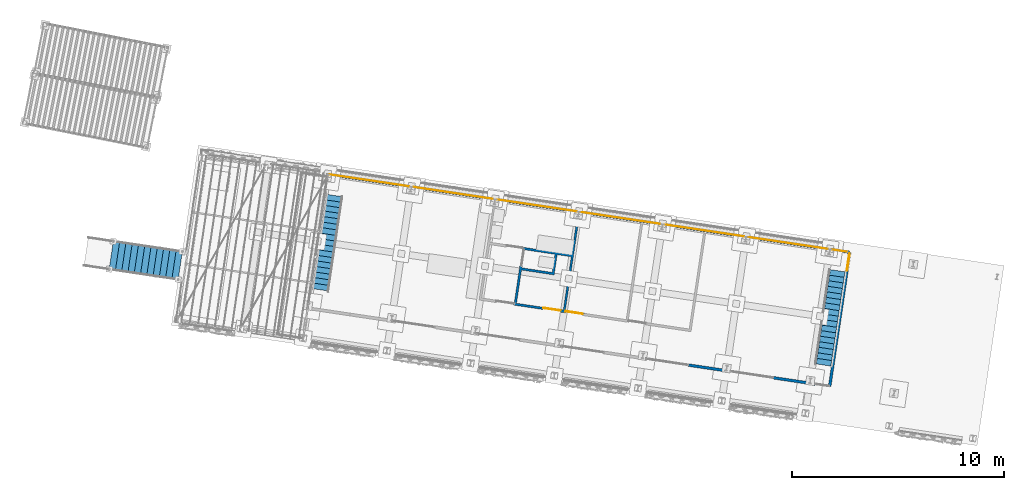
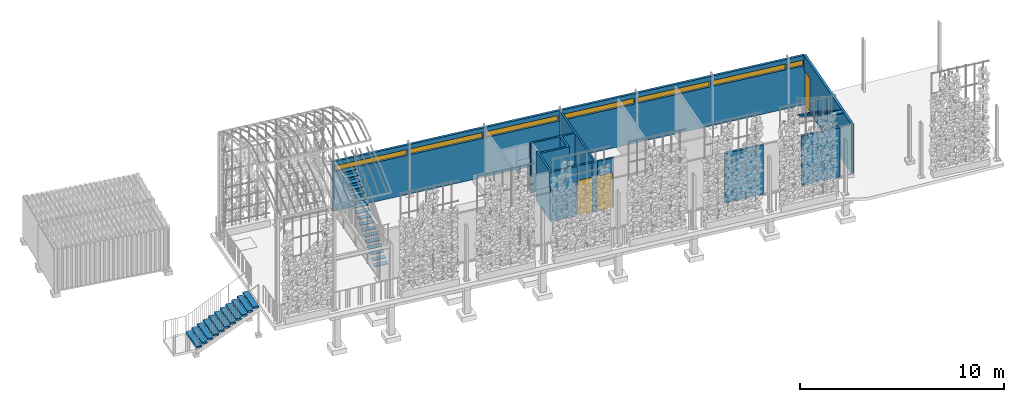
# One storey, part 135 of 142: 7 windows, 5 walls, 3 doors, 3 stair flights, 13 openings, 3 elements without a shape of their own.
"""IFC4 building model written with IfcOpenShell, lengths in metres."""

from ifc_helpers import new_model, si_unit, direction, frame, origin_with_axes, place, context, subcontext, project, spatial, polyline, outline, extrude, material, layer, layer_set, constituent, constituent_set, element, fill, aggregate, save


model = new_model("IFC4")

# Units and contexts
model_context = context("Model", 3, precision=1e-05, world=origin_with_axes(), true_north=direction((0.0, 1.0)))
body_context = subcontext(model_context, "Body", "Model", "MODEL_VIEW")
ifc_project = project(units=[si_unit("AREAUNIT", "SQUARE_METRE"), si_unit("VOLUMEUNIT", "CUBIC_METRE"), si_unit("LENGTHUNIT", "METRE")], contexts=[model_context])

# Site, building, storey
site_placement = place(None, origin_with_axes())
site = spatial("IfcSite", under=ifc_project, at=site_placement, Name="Lares · Rua das Mercês · artigo 4771")
building_placement = place(site_placement, frame((15.0, 9.7, 14.65), z_axis=(0.0, 0.0, 1.0), x_axis=(0.989015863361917, -0.147809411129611, 0.0)))
building = spatial("IfcBuilding", under=site, at=building_placement, Name="Casa Sobreposta")
storey_placement = place(building_placement, origin_with_axes())
storey = spatial("IfcBuildingStorey", under=building, at=storey_placement, Name="00 · Habitação e estacionamento", Elevation=14.65)

# Wall, openings, doors
ifc_material_1 = material(Name="OSB", Category="wood")
ifc_constituent_1 = constituent(ifc_material_1, Name="osb")
ifc_material_2 = material(Name="Lã mineral / Mineralwolle 2", Category="mineral wool")
ifc_constituent_2 = constituent(ifc_material_2, Name="wool")
ifc_constituent_set = constituent_set(constituents=[ifc_constituent_1, ifc_constituent_2], Name="OSB22 / lã mineral / OSB22")
wall_1_placement = place(storey_placement, origin_with_axes())
wall_1 = element("IfcWall", 1, at=wall_1_placement, inside=storey, material=ifc_constituent_set, Name="Divisória 2 · OSB 22 mm nas duas faces", context=body_context, shape_type="SweptSolid", body=[
    extrude(outline(polyline([(9.72999999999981, 3.383), (11.1799999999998, 3.383), (11.1799999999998, 4.24299999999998), (9.72999999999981, 4.24299999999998), (9.72999999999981, 4.19299999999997), (9.61999999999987, 4.19299999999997), (9.61999999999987, 4.24299999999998), (9.56999999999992, 4.24299999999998), (9.56999999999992, 4.35299999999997), (11.96, 4.35299999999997), (11.96, 6.27299999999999), (12.06, 6.27299999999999), (12.06, 1.70993390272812), (12.9746138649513, 1.7100856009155), (12.974632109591, 1.60008560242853), (12.1099999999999, 1.59994219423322), (12.1099999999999, 1.57999999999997), (11.8099999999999, 1.57999999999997), (11.8099999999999, 1.59995696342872), (11.05, 1.60006879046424), (11.05, 1.57999999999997), (9.56999999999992, 1.57999999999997), (9.56999999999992, 1.68999999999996), (9.61999999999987, 1.68999999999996), (9.61999999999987, 3.53299999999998), (9.72999999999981, 3.53299999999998), (9.72999999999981, 3.383)]), holes=[polyline([(9.64199999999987, 3.51099999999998), (9.64199999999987, 1.66799999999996), (9.59199999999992, 1.66799999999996), (9.59199999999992, 1.60199999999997), (11.028, 1.60199999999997), (11.028, 1.62207202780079), (11.8319999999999, 1.62195372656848), (11.8319999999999, 1.60199999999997), (12.0879999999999, 1.60199999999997), (12.0879999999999, 1.62193854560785), (12.9526284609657, 1.62208195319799), (12.9526175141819, 1.68808195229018), (12.038, 1.68793025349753), (12.038, 6.25099999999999), (11.982, 6.25099999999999), (11.982, 4.33099999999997), (9.59199999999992, 4.33099999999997), (9.59199999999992, 4.26499999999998), (9.64199999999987, 4.26499999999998), (9.64199999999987, 4.21499999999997), (9.70799999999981, 4.21499999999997), (9.70799999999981, 4.26499999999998), (11.2019999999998, 4.26499999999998), (11.2019999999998, 3.361), (9.70799999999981, 3.361), (9.70799999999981, 3.51099999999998), (9.64199999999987, 3.51099999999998)])]), origin_with_axes(), (0.0, 0.0, 1.0), 2.968),
    extrude(outline(polyline([(10.9666589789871, 1.66799999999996), (9.70799999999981, 1.66799999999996), (9.70799999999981, 3.29500000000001), (11.268, 3.29500000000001), (11.268, 4.26499999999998), (11.982, 4.26499999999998), (11.982, 1.66799999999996), (11.892736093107, 1.66799999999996), (11.8927390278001, 1.68794479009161), (10.9666619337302, 1.68808105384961), (10.9666589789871, 1.66799999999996)]), holes=[polyline([(11.96, 4.24299999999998), (11.29, 4.24299999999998), (11.29, 3.27300000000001), (9.72999999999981, 3.27300000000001), (9.72999999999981, 1.68999999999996), (10.9446622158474, 1.68999999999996), (10.9446651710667, 1.71008429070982), (11.9147422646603, 1.70994155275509), (11.9147393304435, 1.68999999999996), (11.96, 1.68999999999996), (11.96, 4.24299999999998)])]), origin_with_axes(), (0.0, 0.0, 1.0), 2.968),
    extrude(outline(polyline([(9.70799999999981, 3.51099999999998), (9.70799999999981, 3.361), (11.2019999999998, 3.361), (11.2019999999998, 4.26499999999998), (9.70799999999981, 4.26499999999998), (9.70799999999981, 4.21499999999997), (9.64199999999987, 4.21499999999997), (9.64199999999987, 4.26499999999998), (9.59199999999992, 4.26499999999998), (9.59199999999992, 4.33099999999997), (11.982, 4.33099999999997), (11.982, 6.25099999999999), (12.038, 6.25099999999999), (12.038, 1.68793025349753), (12.9526175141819, 1.68808195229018), (12.9526284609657, 1.62208195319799), (12.0879999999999, 1.62193854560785), (12.0879999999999, 1.60199999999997), (11.8319999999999, 1.60199999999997), (11.8319999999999, 1.62195372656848), (11.028, 1.62207202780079), (11.028, 1.60199999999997), (9.59199999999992, 1.60199999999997), (9.59199999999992, 1.66799999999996), (9.64199999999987, 1.66799999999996), (9.64199999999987, 3.51099999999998), (9.70799999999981, 3.51099999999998)]), holes=[polyline([(10.9666619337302, 1.68808105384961), (11.8927390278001, 1.68794479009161), (11.892736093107, 1.66799999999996), (11.982, 1.66799999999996), (11.982, 4.26499999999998), (11.268, 4.26499999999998), (11.268, 3.29500000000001), (9.70799999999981, 3.29500000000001), (9.70799999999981, 1.66799999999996), (10.9666589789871, 1.66799999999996), (10.9666619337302, 1.68808105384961)])]), origin_with_axes(), (0.0, 0.0, 1.0), 2.968),
])
opening_1_placement = place(wall_1_placement, origin_with_axes())
opening_1 = element("IfcOpeningElement", 2, at=opening_1_placement, cuts=wall_1, PredefinedType="OPENING", context=body_context, shape_type="SweptSolid", body=[
    extrude(outline(polyline([(12.9045964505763, 1.81507398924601), (12.9046495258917, 1.49507399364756), (12.0745568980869, 1.49493631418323), (12.0745038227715, 1.81493630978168), (12.9045964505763, 1.81507398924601)])), origin_with_axes(), (0.0, 0.0, 1.0), 2.1),
])
opening_2_placement = place(wall_1_placement, origin_with_axes())
element("IfcOpeningElement", 3, at=opening_2_placement, cuts=wall_1, PredefinedType="OPENING", context=body_context, shape_type="SweptSolid", body=[
    extrude(outline(polyline([(8.87451187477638, 4.15754451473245), (8.87455853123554, 4.47754451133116), (9.60464431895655, 4.4774380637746), (9.60459766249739, 4.15743806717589), (8.87451187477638, 4.15754451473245)])), origin_with_axes(), (0.0, 0.0, 1.0), 2.1),
])
opening_3_placement = place(wall_1_placement, origin_with_axes())
element("IfcOpeningElement", 4, at=opening_3_placement, cuts=wall_1, PredefinedType="OPENING", context=body_context, shape_type="SweptSolid", body=[
    extrude(outline(polyline([(8.77453708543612, 1.49507399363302), (8.77458998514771, 1.81507398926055), (9.60468215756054, 1.81493676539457), (9.60462925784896, 1.49493676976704), (8.77453708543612, 1.49507399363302)])), origin_with_axes(), (0.0, 0.0, 1.0), 2.1),
])
opening_4_placement = place(wall_1_placement, origin_with_axes())
opening_4 = element("IfcOpeningElement", 5, at=opening_4_placement, cuts=wall_1, Name="Vão porta interior 5.1", PredefinedType="OPENING", context=body_context, shape_type="SweptSolid", body=[
    extrude(outline(polyline([(11.0146335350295, 1.49507399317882), (11.0146806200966, 1.81507398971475), (11.8447577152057, 1.81495185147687), (11.8447106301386, 1.49495185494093), (11.0146335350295, 1.49507399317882)])), origin_with_axes(), (0.0, 0.0, 1.0), 2.1),
])
opening_5_placement = place(wall_1_placement, origin_with_axes())
element("IfcOpeningElement", 6, at=opening_5_placement, cuts=wall_1, PredefinedType="OPENING", context=body_context, shape_type="SweptSolid", body=[
    extrude(outline(polyline([(9.85466693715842, 3.49756304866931), (9.53466694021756, 3.49751880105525), (9.5345659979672, 4.22753601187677), (9.85456599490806, 4.22758025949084), (9.85466693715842, 3.49756304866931)])), origin_with_axes(), (0.0, 0.0, 1.0), 2.1),
])
door_1_placement = place(storey_placement, origin_with_axes())
door_1 = element("IfcDoor", 7, at=door_1_placement, inside=storey, material=ifc_material_1, Name="Porta interior 2", OperationType="SINGLE_SWING_LEFT", OverallHeight=2.1, OverallWidth=0.830092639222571, PredefinedType="DOOR", context=body_context, shape_type="SweptSolid", body=[
    extrude(outline(polyline([(12.9046200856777, 1.67257399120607), (12.9046258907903, 1.63757399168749), (12.0745332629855, 1.63743631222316), (12.0745274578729, 1.67243631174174), (12.9046200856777, 1.67257399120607)])), origin_with_axes(), (0.0, 0.0, 1.0), 2.1),
])
fill(opening_1, door_1)
door_2_placement = place(storey_placement, origin_with_axes())
door_2 = element("IfcDoor", 8, at=door_2_placement, inside=storey, material=ifc_material_1, Name="Porta interior 5", OperationType="SINGLE_SWING_LEFT", OverallHeight=2.1, OverallWidth=0.830077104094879, PredefinedType="DOOR", context=body_context, shape_type="SweptSolid", body=[
    extrude(outline(polyline([(11.0146545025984, 1.63757399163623), (11.0146596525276, 1.67257399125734), (11.8447367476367, 1.67245185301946), (11.8447315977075, 1.63745185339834), (11.0146545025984, 1.63757399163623)])), origin_with_axes(), (0.0, 0.0, 1.0), 2.1),
])
fill(opening_4, door_2)

# Wall, openings, windows
ifc_material_3 = material(Name="Aço pintado / Stahl lackiert", Category="steel")
ifc_layer_1 = layer(ifc_material_3, 0.005, Name="steel")
ifc_layer_2 = layer(ifc_material_2, 0.12, Name="wool")
ifc_layer_3 = layer(ifc_material_3, 0.00516, Name="steel")
ifc_layer_set_1 = layer_set([ifc_layer_1, ifc_layer_2, ifc_layer_3], Name="Casa DFL sandwich · 130.16 mm")
wall_2_placement = place(storey_placement, origin_with_axes())
wall_2 = element("IfcWall", 9, at=wall_2_placement, inside=storey, material=ifc_layer_set_1, Name="Fachada norte · sandwich Casa DFL", context=body_context, shape_type="SweptSolid", body=[
    extrude(outline(polyline([(24.92, 6.46508), (24.92, 6.33492), (0.0, 6.33492), (0.0, 6.46508), (24.92, 6.46508)])), origin_with_axes(), (0.0, 0.0, 1.0), 2.968),
])
opening_6_placement = place(wall_2_placement, frame((0.0, 0.0, 2.35), z_axis=(0.0, 0.0, 1.0), x_axis=(1.0, 0.0, 0.0)))
opening_6 = element("IfcOpeningElement", 10, at=opening_6_placement, cuts=wall_2, Name="Vão rasgo norte 1", PredefinedType="OPENING", context=body_context, shape_type="SweptSolid", body=[
    extrude(outline(polyline([(3.92, 6.6), (3.92, 6.2), (0.08, 6.2), (0.08, 6.6), (3.92, 6.6)])), origin_with_axes(), (0.0, 0.0, 1.0), 0.35),
])
opening_7_placement = place(wall_2_placement, frame((0.0, 0.0, 2.35), z_axis=(0.0, 0.0, 1.0), x_axis=(1.0, 0.0, 0.0)))
opening_7 = element("IfcOpeningElement", 11, at=opening_7_placement, cuts=wall_2, Name="Vão rasgo norte 2", PredefinedType="OPENING", context=body_context, shape_type="SweptSolid", body=[
    extrude(outline(polyline([(7.92, 6.6), (7.92, 6.2), (4.08, 6.2), (4.08, 6.6), (7.92, 6.6)])), origin_with_axes(), (0.0, 0.0, 1.0), 0.35),
])
opening_8_placement = place(wall_2_placement, frame((0.0, 0.0, 2.35), z_axis=(0.0, 0.0, 1.0), x_axis=(1.0, 0.0, 0.0)))
opening_8 = element("IfcOpeningElement", 12, at=opening_8_placement, cuts=wall_2, Name="Vão rasgo norte 3", PredefinedType="OPENING", context=body_context, shape_type="SweptSolid", body=[
    extrude(outline(polyline([(11.92, 6.6), (11.92, 6.2), (8.08, 6.2), (8.08, 6.6), (11.92, 6.6)])), origin_with_axes(), (0.0, 0.0, 1.0), 0.35),
])
opening_9_placement = place(wall_2_placement, frame((0.0, 0.0, 2.35), z_axis=(0.0, 0.0, 1.0), x_axis=(1.0, 0.0, 0.0)))
opening_9 = element("IfcOpeningElement", 13, at=opening_9_placement, cuts=wall_2, Name="Vão rasgo norte 4", PredefinedType="OPENING", context=body_context, shape_type="SweptSolid", body=[
    extrude(outline(polyline([(15.92, 6.6), (15.92, 6.2), (12.08, 6.2), (12.08, 6.6), (15.92, 6.6)])), origin_with_axes(), (0.0, 0.0, 1.0), 0.35),
])
opening_10_placement = place(wall_2_placement, frame((0.0, 0.0, 2.35), z_axis=(0.0, 0.0, 1.0), x_axis=(1.0, 0.0, 0.0)))
opening_10 = element("IfcOpeningElement", 14, at=opening_10_placement, cuts=wall_2, Name="Vão rasgo norte 5", PredefinedType="OPENING", context=body_context, shape_type="SweptSolid", body=[
    extrude(outline(polyline([(19.92, 6.6), (19.92, 6.2), (16.08, 6.2), (16.08, 6.6), (19.92, 6.6)])), origin_with_axes(), (0.0, 0.0, 1.0), 0.35),
])
opening_11_placement = place(wall_2_placement, frame((0.0, 0.0, 2.35), z_axis=(0.0, 0.0, 1.0), x_axis=(1.0, 0.0, 0.0)))
opening_11 = element("IfcOpeningElement", 15, at=opening_11_placement, cuts=wall_2, Name="Vão rasgo norte 6", PredefinedType="OPENING", context=body_context, shape_type="SweptSolid", body=[
    extrude(outline(polyline([(23.92, 6.6), (23.92, 6.2), (20.08, 6.2), (20.08, 6.6), (23.92, 6.6)])), origin_with_axes(), (0.0, 0.0, 1.0), 0.35),
])
opening_12_placement = place(wall_2_placement, frame((0.0, 0.0, 2.35), z_axis=(0.0, 0.0, 1.0), x_axis=(1.0, 0.0, 0.0)))
opening_12 = element("IfcOpeningElement", 16, at=opening_12_placement, cuts=wall_2, Name="Vão rasgo norte 7", PredefinedType="OPENING", context=body_context, shape_type="SweptSolid", body=[
    extrude(outline(polyline([(24.84, 6.6), (24.84, 6.2), (24.08, 6.2), (24.08, 6.6), (24.84, 6.6)])), origin_with_axes(), (0.0, 0.0, 1.0), 0.35),
])
ifc_material_4 = material(Name="Vidro / Normalglas", Category="glass")
window_1_placement = place(storey_placement, frame((0.0, 0.0, 2.375), z_axis=(0.0, 0.0, 1.0), x_axis=(1.0, 0.0, 0.0)))
window_1 = element("IfcWindow", 17, at=window_1_placement, inside=storey, material=ifc_material_4, Name="Rasgo norte 1", OverallHeight=0.3, OverallWidth=3.79, PartitioningType="SINGLE_PANEL", PredefinedType="WINDOW", context=body_context, shape_type="SweptSolid", body=[
    extrude(outline(polyline([(3.895, 6.404), (3.895, 6.396), (0.105, 6.396), (0.105, 6.404), (3.895, 6.404)])), origin_with_axes(), (0.0, 0.0, 1.0), 0.3),
])
fill(opening_6, window_1)
window_2_placement = place(storey_placement, frame((0.0, 0.0, 2.375), z_axis=(0.0, 0.0, 1.0), x_axis=(1.0, 0.0, 0.0)))
window_2 = element("IfcWindow", 18, at=window_2_placement, inside=storey, material=ifc_material_4, Name="Rasgo norte 2", OverallHeight=0.3, OverallWidth=3.79, PartitioningType="SINGLE_PANEL", PredefinedType="WINDOW", context=body_context, shape_type="SweptSolid", body=[
    extrude(outline(polyline([(7.895, 6.404), (7.895, 6.396), (4.105, 6.396), (4.105, 6.404), (7.895, 6.404)])), origin_with_axes(), (0.0, 0.0, 1.0), 0.3),
])
fill(opening_7, window_2)
window_3_placement = place(storey_placement, frame((0.0, 0.0, 2.375), z_axis=(0.0, 0.0, 1.0), x_axis=(1.0, 0.0, 0.0)))
window_3 = element("IfcWindow", 19, at=window_3_placement, inside=storey, material=ifc_material_4, Name="Rasgo norte 3", OverallHeight=0.3, OverallWidth=3.79, PartitioningType="SINGLE_PANEL", PredefinedType="WINDOW", context=body_context, shape_type="SweptSolid", body=[
    extrude(outline(polyline([(11.895, 6.404), (11.895, 6.396), (8.105, 6.396), (8.105, 6.404), (11.895, 6.404)])), origin_with_axes(), (0.0, 0.0, 1.0), 0.3),
])
fill(opening_8, window_3)
window_4_placement = place(storey_placement, frame((0.0, 0.0, 2.375), z_axis=(0.0, 0.0, 1.0), x_axis=(1.0, 0.0, 0.0)))
window_4 = element("IfcWindow", 20, at=window_4_placement, inside=storey, material=ifc_material_4, Name="Rasgo norte 4", OverallHeight=0.3, OverallWidth=3.79, PartitioningType="SINGLE_PANEL", PredefinedType="WINDOW", context=body_context, shape_type="SweptSolid", body=[
    extrude(outline(polyline([(15.895, 6.404), (15.895, 6.396), (12.105, 6.396), (12.105, 6.404), (15.895, 6.404)])), origin_with_axes(), (0.0, 0.0, 1.0), 0.3),
])
fill(opening_9, window_4)
window_5_placement = place(storey_placement, frame((0.0, 0.0, 2.375), z_axis=(0.0, 0.0, 1.0), x_axis=(1.0, 0.0, 0.0)))
window_5 = element("IfcWindow", 21, at=window_5_placement, inside=storey, material=ifc_material_4, Name="Rasgo norte 5", OverallHeight=0.3, OverallWidth=3.79, PartitioningType="SINGLE_PANEL", PredefinedType="WINDOW", context=body_context, shape_type="SweptSolid", body=[
    extrude(outline(polyline([(19.895, 6.404), (19.895, 6.396), (16.105, 6.396), (16.105, 6.404), (19.895, 6.404)])), origin_with_axes(), (0.0, 0.0, 1.0), 0.3),
])
fill(opening_10, window_5)
window_6_placement = place(storey_placement, frame((0.0, 0.0, 2.375), z_axis=(0.0, 0.0, 1.0), x_axis=(1.0, 0.0, 0.0)))
window_6 = element("IfcWindow", 22, at=window_6_placement, inside=storey, material=ifc_material_4, Name="Rasgo norte 6", OverallHeight=0.3, OverallWidth=3.79, PartitioningType="SINGLE_PANEL", PredefinedType="WINDOW", context=body_context, shape_type="SweptSolid", body=[
    extrude(outline(polyline([(23.895, 6.404), (23.895, 6.396), (20.105, 6.396), (20.105, 6.404), (23.895, 6.404)])), origin_with_axes(), (0.0, 0.0, 1.0), 0.3),
])
fill(opening_11, window_6)
window_7_placement = place(storey_placement, frame((0.0, 0.0, 2.375), z_axis=(0.0, 0.0, 1.0), x_axis=(1.0, 0.0, 0.0)))
window_7 = element("IfcWindow", 23, at=window_7_placement, inside=storey, material=ifc_material_4, Name="Rasgo norte 7", OverallHeight=0.3, OverallWidth=0.710000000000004, PartitioningType="SINGLE_PANEL", PredefinedType="WINDOW", context=body_context, shape_type="SweptSolid", body=[
    extrude(outline(polyline([(24.815, 6.404), (24.815, 6.396), (24.105, 6.396), (24.105, 6.404), (24.815, 6.404)])), origin_with_axes(), (0.0, 0.0, 1.0), 0.3),
])
fill(opening_12, window_7)

# Wall, opening, door
ifc_layer_4 = layer(ifc_material_3, 0.005, Name="steel")
ifc_layer_5 = layer(ifc_material_2, 0.12, Name="wool")
ifc_layer_6 = layer(ifc_material_3, 0.00516, Name="steel")
ifc_layer_set_2 = layer_set([ifc_layer_4, ifc_layer_5, ifc_layer_6], Name="Casa DFL sandwich · 130.16 mm")
wall_3_placement = place(storey_placement, origin_with_axes())
wall_3 = element("IfcWall", 24, at=wall_3_placement, inside=storey, material=ifc_layer_set_2, Name="Separação do estacionamento", context=body_context, shape_type="SweptSolid", body=[
    extrude(outline(polyline([(24.87992, 6.4), (25.01008, 6.4), (25.01008, 0.0), (24.87992, 0.0), (24.87992, 6.4)])), origin_with_axes(), (0.0, 0.0, 1.0), 2.968),
])
opening_13_placement = place(wall_3_placement, origin_with_axes())
opening_13 = element("IfcOpeningElement", 25, at=opening_13_placement, cuts=wall_3, Name="Vão de acesso do estacionamento", PredefinedType="OPENING", context=body_context, shape_type="SweptSolid", body=[
    extrude(outline(polyline([(24.745, 6.34), (25.145, 6.34), (25.145, 5.51), (24.745, 5.51), (24.745, 6.34)])), origin_with_axes(), (0.0, 0.0, 1.0), 2.1),
])
door_3_placement = place(storey_placement, origin_with_axes())
door_3 = element("IfcDoor", 26, at=door_3_placement, inside=storey, material=ifc_material_3, Name="Porta do estacionamento", OperationType="SINGLE_SWING_LEFT", OverallHeight=2.1, OverallWidth=0.83, PredefinedType="DOOR", context=body_context, shape_type="SweptSolid", body=[
    extrude(outline(polyline([(24.925, 6.34), (24.965, 6.34), (24.965, 5.51), (24.925, 5.51), (24.925, 6.34)])), origin_with_axes(), (0.0, 0.0, 1.0), 2.1),
])
fill(opening_13, door_3)

# Walls
ifc_layer_7 = layer(ifc_material_3, 0.005, Name="steel")
ifc_layer_8 = layer(ifc_material_2, 0.12, Name="wool")
ifc_layer_9 = layer(ifc_material_3, 0.00516, Name="steel")
ifc_layer_set_3 = layer_set([ifc_layer_7, ifc_layer_8, ifc_layer_9], Name="Casa DFL sandwich · 130.16 mm")
wall_4_placement = place(storey_placement, origin_with_axes())
element("IfcWall", 27, at=wall_4_placement, inside=storey, material=ifc_layer_set_3, Name="Painel opaco sul 9", context=body_context, shape_type="SweptSolid", body=[
    extrude(outline(polyline([(20.2133333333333, 0.06508), (20.2133333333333, -0.06508), (18.192, -0.06508), (18.192, 0.06508), (20.2133333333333, 0.06508)])), origin_with_axes(), (0.0, 0.0, 1.0), 2.968),
])
ifc_layer_10 = layer(ifc_material_3, 0.005, Name="steel")
ifc_layer_11 = layer(ifc_material_2, 0.12, Name="wool")
ifc_layer_12 = layer(ifc_material_3, 0.00516, Name="steel")
ifc_layer_set_4 = layer_set([ifc_layer_10, ifc_layer_11, ifc_layer_12], Name="Casa DFL sandwich · 130.16 mm")
wall_5_placement = place(storey_placement, origin_with_axes())
element("IfcWall", 28, at=wall_5_placement, inside=storey, material=ifc_layer_set_4, Name="Painel opaco sul 11", context=body_context, shape_type="SweptSolid", body=[
    extrude(outline(polyline([(24.256, 0.06508), (24.256, -0.06508), (22.2346666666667, -0.06508), (22.2346666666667, 0.06508), (24.256, 0.06508)])), origin_with_axes(), (0.0, 0.0, 1.0), 2.968),
])

# Stair, stair flight
stair_1_placement = place(storey_placement, origin_with_axes())
stair_1 = element("IfcStair", 29, at=stair_1_placement, inside=storey, Name="Escada sala", PredefinedType="STRAIGHT_RUN_STAIR")
stair_flight_1_placement = place(stair_1_placement, origin_with_axes())
stair_flight_1 = element("IfcStairFlight", 30, at=stair_flight_1_placement, material=ifc_material_1, Name="Lanço sala", NumberOfRisers=18, NumberOfTreads=17, PredefinedType="STRAIGHT", RiserHeight=0.18, TreadLength=0.265, context=body_context, shape_type="SweptSolid", body=[
    extrude(outline(polyline([(0.79, 0.9475), (0.79, 1.2125), (0.09, 1.2125), (0.09, 0.9475), (0.79, 0.9475)])), frame((0.0, 0.0, 0.14), z_axis=(0.0, 0.0, 1.0), x_axis=(1.0, 0.0, 0.0)), (0.0, 0.0, 1.0), 0.04),
    extrude(outline(polyline([(0.79, 1.2125), (0.79, 1.4775), (0.09, 1.4775), (0.09, 1.2125), (0.79, 1.2125)])), frame((0.0, 0.0, 0.32), z_axis=(0.0, 0.0, 1.0), x_axis=(1.0, 0.0, 0.0)), (0.0, 0.0, 1.0), 0.04),
    extrude(outline(polyline([(0.79, 1.4775), (0.79, 1.7425), (0.09, 1.7425), (0.09, 1.4775), (0.79, 1.4775)])), frame((0.0, 0.0, 0.5), z_axis=(0.0, 0.0, 1.0), x_axis=(1.0, 0.0, 0.0)), (0.0, 0.0, 1.0), 0.04),
    extrude(outline(polyline([(0.79, 1.7425), (0.79, 2.0075), (0.09, 2.0075), (0.09, 1.7425), (0.79, 1.7425)])), frame((0.0, 0.0, 0.68), z_axis=(0.0, 0.0, 1.0), x_axis=(1.0, 0.0, 0.0)), (0.0, 0.0, 1.0), 0.04),
    extrude(outline(polyline([(0.79, 2.0075), (0.79, 2.2725), (0.09, 2.2725), (0.09, 2.0075), (0.79, 2.0075)])), frame((0.0, 0.0, 0.86), z_axis=(0.0, 0.0, 1.0), x_axis=(1.0, 0.0, 0.0)), (0.0, 0.0, 1.0), 0.04),
    extrude(outline(polyline([(0.79, 2.2725), (0.79, 2.5375), (0.09, 2.5375), (0.09, 2.2725), (0.79, 2.2725)])), frame((0.0, 0.0, 1.04), z_axis=(0.0, 0.0, 1.0), x_axis=(1.0, 0.0, 0.0)), (0.0, 0.0, 1.0), 0.04),
    extrude(outline(polyline([(0.79, 2.5375), (0.79, 2.8025), (0.09, 2.8025), (0.09, 2.5375), (0.79, 2.5375)])), frame((0.0, 0.0, 1.22), z_axis=(0.0, 0.0, 1.0), x_axis=(1.0, 0.0, 0.0)), (0.0, 0.0, 1.0), 0.04),
    extrude(outline(polyline([(0.79, 2.8025), (0.79, 3.0675), (0.09, 3.0675), (0.09, 2.8025), (0.79, 2.8025)])), frame((0.0, 0.0, 1.4), z_axis=(0.0, 0.0, 1.0), x_axis=(1.0, 0.0, 0.0)), (0.0, 0.0, 1.0), 0.04),
    extrude(outline(polyline([(0.79, 3.0675), (0.79, 3.3325), (0.09, 3.3325), (0.09, 3.0675), (0.79, 3.0675)])), frame((0.0, 0.0, 1.58), z_axis=(0.0, 0.0, 1.0), x_axis=(1.0, 0.0, 0.0)), (0.0, 0.0, 1.0), 0.04),
    extrude(outline(polyline([(0.79, 3.3325), (0.79, 3.5975), (0.09, 3.5975), (0.09, 3.3325), (0.79, 3.3325)])), frame((0.0, 0.0, 1.76), z_axis=(0.0, 0.0, 1.0), x_axis=(1.0, 0.0, 0.0)), (0.0, 0.0, 1.0), 0.04),
    extrude(outline(polyline([(0.79, 3.5975), (0.79, 3.8625), (0.09, 3.8625), (0.09, 3.5975), (0.79, 3.5975)])), frame((0.0, 0.0, 1.94), z_axis=(0.0, 0.0, 1.0), x_axis=(1.0, 0.0, 0.0)), (0.0, 0.0, 1.0), 0.04),
    extrude(outline(polyline([(0.79, 3.8625), (0.79, 4.1275), (0.09, 4.1275), (0.09, 3.8625), (0.79, 3.8625)])), frame((0.0, 0.0, 2.12), z_axis=(0.0, 0.0, 1.0), x_axis=(1.0, 0.0, 0.0)), (0.0, 0.0, 1.0), 0.04),
    extrude(outline(polyline([(0.79, 4.1275), (0.79, 4.3925), (0.09, 4.3925), (0.09, 4.1275), (0.79, 4.1275)])), frame((0.0, 0.0, 2.3), z_axis=(0.0, 0.0, 1.0), x_axis=(1.0, 0.0, 0.0)), (0.0, 0.0, 1.0), 0.04),
    extrude(outline(polyline([(0.79, 4.3925), (0.79, 4.6575), (0.09, 4.6575), (0.09, 4.3925), (0.79, 4.3925)])), frame((0.0, 0.0, 2.48), z_axis=(0.0, 0.0, 1.0), x_axis=(1.0, 0.0, 0.0)), (0.0, 0.0, 1.0), 0.04),
    extrude(outline(polyline([(0.79, 4.6575), (0.79, 4.9225), (0.09, 4.9225), (0.09, 4.6575), (0.79, 4.6575)])), frame((0.0, 0.0, 2.66), z_axis=(0.0, 0.0, 1.0), x_axis=(1.0, 0.0, 0.0)), (0.0, 0.0, 1.0), 0.04),
    extrude(outline(polyline([(0.79, 4.9225), (0.79, 5.1875), (0.09, 5.1875), (0.09, 4.9225), (0.79, 4.9225)])), frame((0.0, 0.0, 2.84), z_axis=(0.0, 0.0, 1.0), x_axis=(1.0, 0.0, 0.0)), (0.0, 0.0, 1.0), 0.04),
    extrude(outline(polyline([(0.79, 5.1875), (0.79, 5.4525), (0.09, 5.4525), (0.09, 5.1875), (0.79, 5.1875)])), frame((0.0, 0.0, 3.02), z_axis=(0.0, 0.0, 1.0), x_axis=(1.0, 0.0, 0.0)), (0.0, 0.0, 1.0), 0.04),
])
aggregate(stair_1, [stair_flight_1])

stair_2_placement = place(storey_placement, origin_with_axes())
stair_2 = element("IfcStair", 31, at=stair_2_placement, inside=storey, Name="Escada garagem", PredefinedType="STRAIGHT_RUN_STAIR")
stair_flight_2_placement = place(stair_2_placement, origin_with_axes())
stair_flight_2 = element("IfcStairFlight", 32, at=stair_flight_2_placement, material=ifc_material_1, Name="Lanço garagem", NumberOfRisers=18, NumberOfTreads=17, PredefinedType="STRAIGHT", RiserHeight=0.18, TreadLength=0.265, context=body_context, shape_type="SweptSolid", body=[
    extrude(outline(polyline([(24.86, 5.1875), (24.86, 5.4525), (24.16, 5.4525), (24.16, 5.1875), (24.86, 5.1875)])), frame((0.0, 0.0, 0.14), z_axis=(0.0, 0.0, 1.0), x_axis=(1.0, 0.0, 0.0)), (0.0, 0.0, 1.0), 0.04),
    extrude(outline(polyline([(24.86, 4.9225), (24.86, 5.1875), (24.16, 5.1875), (24.16, 4.9225), (24.86, 4.9225)])), frame((0.0, 0.0, 0.32), z_axis=(0.0, 0.0, 1.0), x_axis=(1.0, 0.0, 0.0)), (0.0, 0.0, 1.0), 0.04),
    extrude(outline(polyline([(24.86, 4.6575), (24.86, 4.9225), (24.16, 4.9225), (24.16, 4.6575), (24.86, 4.6575)])), frame((0.0, 0.0, 0.5), z_axis=(0.0, 0.0, 1.0), x_axis=(1.0, 0.0, 0.0)), (0.0, 0.0, 1.0), 0.04),
    extrude(outline(polyline([(24.86, 4.3925), (24.86, 4.6575), (24.16, 4.6575), (24.16, 4.3925), (24.86, 4.3925)])), frame((0.0, 0.0, 0.68), z_axis=(0.0, 0.0, 1.0), x_axis=(1.0, 0.0, 0.0)), (0.0, 0.0, 1.0), 0.04),
    extrude(outline(polyline([(24.86, 4.1275), (24.86, 4.3925), (24.16, 4.3925), (24.16, 4.1275), (24.86, 4.1275)])), frame((0.0, 0.0, 0.86), z_axis=(0.0, 0.0, 1.0), x_axis=(1.0, 0.0, 0.0)), (0.0, 0.0, 1.0), 0.04),
    extrude(outline(polyline([(24.86, 3.8625), (24.86, 4.1275), (24.16, 4.1275), (24.16, 3.8625), (24.86, 3.8625)])), frame((0.0, 0.0, 1.04), z_axis=(0.0, 0.0, 1.0), x_axis=(1.0, 0.0, 0.0)), (0.0, 0.0, 1.0), 0.04),
    extrude(outline(polyline([(24.86, 3.5975), (24.86, 3.8625), (24.16, 3.8625), (24.16, 3.5975), (24.86, 3.5975)])), frame((0.0, 0.0, 1.22), z_axis=(0.0, 0.0, 1.0), x_axis=(1.0, 0.0, 0.0)), (0.0, 0.0, 1.0), 0.04),
    extrude(outline(polyline([(24.86, 3.3325), (24.86, 3.5975), (24.16, 3.5975), (24.16, 3.3325), (24.86, 3.3325)])), frame((0.0, 0.0, 1.4), z_axis=(0.0, 0.0, 1.0), x_axis=(1.0, 0.0, 0.0)), (0.0, 0.0, 1.0), 0.04),
    extrude(outline(polyline([(24.86, 3.0675), (24.86, 3.3325), (24.16, 3.3325), (24.16, 3.0675), (24.86, 3.0675)])), frame((0.0, 0.0, 1.58), z_axis=(0.0, 0.0, 1.0), x_axis=(1.0, 0.0, 0.0)), (0.0, 0.0, 1.0), 0.04),
    extrude(outline(polyline([(24.86, 2.8025), (24.86, 3.0675), (24.16, 3.0675), (24.16, 2.8025), (24.86, 2.8025)])), frame((0.0, 0.0, 1.76), z_axis=(0.0, 0.0, 1.0), x_axis=(1.0, 0.0, 0.0)), (0.0, 0.0, 1.0), 0.04),
    extrude(outline(polyline([(24.86, 2.5375), (24.86, 2.8025), (24.16, 2.8025), (24.16, 2.5375), (24.86, 2.5375)])), frame((0.0, 0.0, 1.94), z_axis=(0.0, 0.0, 1.0), x_axis=(1.0, 0.0, 0.0)), (0.0, 0.0, 1.0), 0.04),
    extrude(outline(polyline([(24.86, 2.2725), (24.86, 2.5375), (24.16, 2.5375), (24.16, 2.2725), (24.86, 2.2725)])), frame((0.0, 0.0, 2.12), z_axis=(0.0, 0.0, 1.0), x_axis=(1.0, 0.0, 0.0)), (0.0, 0.0, 1.0), 0.04),
    extrude(outline(polyline([(24.86, 2.0075), (24.86, 2.2725), (24.16, 2.2725), (24.16, 2.0075), (24.86, 2.0075)])), frame((0.0, 0.0, 2.3), z_axis=(0.0, 0.0, 1.0), x_axis=(1.0, 0.0, 0.0)), (0.0, 0.0, 1.0), 0.04),
    extrude(outline(polyline([(24.86, 1.7425), (24.86, 2.0075), (24.16, 2.0075), (24.16, 1.7425), (24.86, 1.7425)])), frame((0.0, 0.0, 2.48), z_axis=(0.0, 0.0, 1.0), x_axis=(1.0, 0.0, 0.0)), (0.0, 0.0, 1.0), 0.04),
    extrude(outline(polyline([(24.86, 1.4775), (24.86, 1.7425), (24.16, 1.7425), (24.16, 1.4775), (24.86, 1.4775)])), frame((0.0, 0.0, 2.66), z_axis=(0.0, 0.0, 1.0), x_axis=(1.0, 0.0, 0.0)), (0.0, 0.0, 1.0), 0.04),
    extrude(outline(polyline([(24.86, 1.2125), (24.86, 1.4775), (24.16, 1.4775), (24.16, 1.2125), (24.86, 1.2125)])), frame((0.0, 0.0, 2.84), z_axis=(0.0, 0.0, 1.0), x_axis=(1.0, 0.0, 0.0)), (0.0, 0.0, 1.0), 0.04),
    extrude(outline(polyline([(24.86, 0.947499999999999), (24.86, 1.2125), (24.16, 1.2125), (24.16, 0.947499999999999), (24.86, 0.947499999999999)])), frame((0.0, 0.0, 3.02), z_axis=(0.0, 0.0, 1.0), x_axis=(1.0, 0.0, 0.0)), (0.0, 0.0, 1.0), 0.04),
])
aggregate(stair_2, [stair_flight_2])

stair_3_placement = place(storey_placement, origin_with_axes())
stair_3 = element("IfcStair", 33, at=stair_3_placement, inside=storey, Name="Jardim · escada pela fachada poente", PredefinedType="STRAIGHT_RUN_STAIR")
ifc_material_5 = material(Name="Betão armado / Stahlbeton", Category="concrete")
stair_flight_3_placement = place(stair_3_placement, origin_with_axes())
stair_flight_3 = element("IfcStairFlight", 34, at=stair_flight_3_placement, material=ifc_material_5, Name="Jardim · lanço poente", NumberOfRisers=12, NumberOfTreads=11, PredefinedType="STRAIGHT", RiserHeight=0.159166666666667, TreadLength=0.3, context=body_context, shape_type="SweptSolid", body=[
    extrude(outline(polyline([(-6.25, 0.4), (-6.25, 1.8), (-6.55, 1.8), (-6.55, 0.4), (-6.25, 0.4)])), frame((0.0, 0.0, -0.319166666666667), z_axis=(0.0, 0.0, 1.0), x_axis=(1.0, 0.0, 0.0)), (0.0, 0.0, 1.0), 0.12),
    extrude(outline(polyline([(-6.55, 0.4), (-6.55, 1.8), (-6.85, 1.8), (-6.85, 0.4), (-6.55, 0.4)])), frame((0.0, 0.0, -0.478333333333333), z_axis=(0.0, 0.0, 1.0), x_axis=(1.0, 0.0, 0.0)), (0.0, 0.0, 1.0), 0.12),
    extrude(outline(polyline([(-6.85, 0.4), (-6.85, 1.8), (-7.15, 1.8), (-7.15, 0.4), (-6.85, 0.4)])), frame((0.0, 0.0, -0.6375), z_axis=(0.0, 0.0, 1.0), x_axis=(1.0, 0.0, 0.0)), (0.0, 0.0, 1.0), 0.12),
    extrude(outline(polyline([(-7.15, 0.4), (-7.15, 1.8), (-7.45, 1.8), (-7.45, 0.4), (-7.15, 0.4)])), frame((0.0, 0.0, -0.796666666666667), z_axis=(0.0, 0.0, 1.0), x_axis=(1.0, 0.0, 0.0)), (0.0, 0.0, 1.0), 0.12),
    extrude(outline(polyline([(-7.45, 0.4), (-7.45, 1.8), (-7.75, 1.8), (-7.75, 0.4), (-7.45, 0.4)])), frame((0.0, 0.0, -0.955833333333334), z_axis=(0.0, 0.0, 1.0), x_axis=(1.0, 0.0, 0.0)), (0.0, 0.0, 1.0), 0.12),
    extrude(outline(polyline([(-7.75, 0.4), (-7.75, 1.8), (-8.05, 1.8), (-8.05, 0.4), (-7.75, 0.4)])), frame((0.0, 0.0, -1.115), z_axis=(0.0, 0.0, 1.0), x_axis=(1.0, 0.0, 0.0)), (0.0, 0.0, 1.0), 0.12),
    extrude(outline(polyline([(-8.05, 0.4), (-8.05, 1.8), (-8.35, 1.8), (-8.35, 0.4), (-8.05, 0.4)])), frame((0.0, 0.0, -1.27416666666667), z_axis=(0.0, 0.0, 1.0), x_axis=(1.0, 0.0, 0.0)), (0.0, 0.0, 1.0), 0.12),
    extrude(outline(polyline([(-8.35, 0.4), (-8.35, 1.8), (-8.65, 1.8), (-8.65, 0.4), (-8.35, 0.4)])), frame((0.0, 0.0, -1.43333333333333), z_axis=(0.0, 0.0, 1.0), x_axis=(1.0, 0.0, 0.0)), (0.0, 0.0, 1.0), 0.12),
    extrude(outline(polyline([(-8.65, 0.4), (-8.65, 1.8), (-8.95, 1.8), (-8.95, 0.4), (-8.65, 0.4)])), frame((0.0, 0.0, -1.5925), z_axis=(0.0, 0.0, 1.0), x_axis=(1.0, 0.0, 0.0)), (0.0, 0.0, 1.0), 0.12),
    extrude(outline(polyline([(-8.95, 0.4), (-8.95, 1.8), (-9.25, 1.8), (-9.25, 0.4), (-8.95, 0.4)])), frame((0.0, 0.0, -1.75166666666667), z_axis=(0.0, 0.0, 1.0), x_axis=(1.0, 0.0, 0.0)), (0.0, 0.0, 1.0), 0.12),
    extrude(outline(polyline([(-9.25, 0.4), (-9.25, 1.8), (-9.55, 1.8), (-9.55, 0.4), (-9.25, 0.4)])), frame((0.0, 0.0, -1.91083333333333), z_axis=(0.0, 0.0, 1.0), x_axis=(1.0, 0.0, 0.0)), (0.0, 0.0, 1.0), 0.12),
])
aggregate(stair_3, [stair_flight_3])

save(model, "model.ifc")
